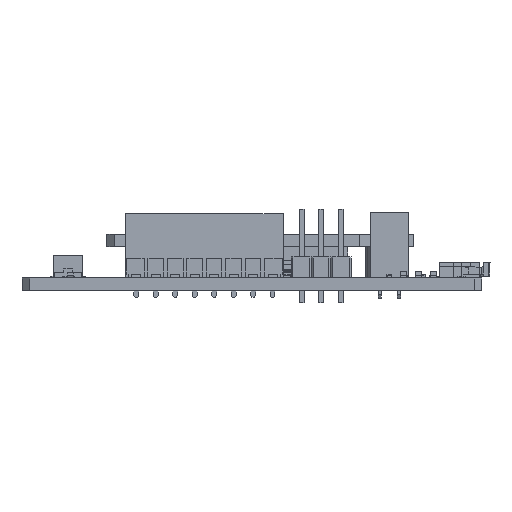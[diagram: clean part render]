
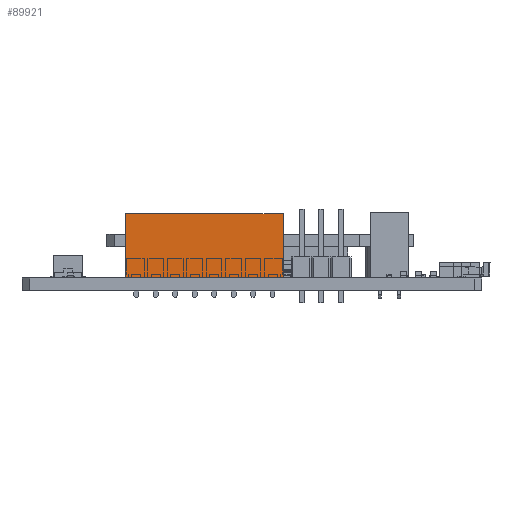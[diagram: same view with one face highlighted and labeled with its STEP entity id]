
A CAD part, left-side view. The second image highlights one B-rep face of the part: STEP entity #89921.
In plain terms, the highlighted planar face has unit normal (-1, 0, 0).
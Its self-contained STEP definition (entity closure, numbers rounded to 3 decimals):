
#89896 = VERTEX_POINT('',#89897);
#89897 = CARTESIAN_POINT('',(-1.37,-10.26,8.38));
#89903 = EDGE_CURVE('',#89904,#89896,#89906,.T.);
#89904 = VERTEX_POINT('',#89905);
#89905 = CARTESIAN_POINT('',(-1.37,-10.26,0.));
#89906 = LINE('',#89907,#89908);
#89907 = CARTESIAN_POINT('',(-1.37,-10.26,0.));
#89908 = VECTOR('',#89909,1.);
#89909 = DIRECTION('',(0.,0.,1.));
#89921 = ADVANCED_FACE('',(#89922),#89947,.T.);
#89922 = FACE_BOUND('',#89923,.T.);
#89923 = EDGE_LOOP('',(#89924,#89925,#89933,#89941));
#89924 = ORIENTED_EDGE('',*,*,#89903,.T.);
#89925 = ORIENTED_EDGE('',*,*,#89926,.T.);
#89926 = EDGE_CURVE('',#89896,#89927,#89929,.T.);
#89927 = VERTEX_POINT('',#89928);
#89928 = CARTESIAN_POINT('',(-1.37,10.26,8.38));
#89929 = LINE('',#89930,#89931);
#89930 = CARTESIAN_POINT('',(-1.37,-10.26,8.38));
#89931 = VECTOR('',#89932,1.);
#89932 = DIRECTION('',(0.,1.,0.));
#89933 = ORIENTED_EDGE('',*,*,#89934,.F.);
#89934 = EDGE_CURVE('',#89935,#89927,#89937,.T.);
#89935 = VERTEX_POINT('',#89936);
#89936 = CARTESIAN_POINT('',(-1.37,10.26,0.));
#89937 = LINE('',#89938,#89939);
#89938 = CARTESIAN_POINT('',(-1.37,10.26,0.));
#89939 = VECTOR('',#89940,1.);
#89940 = DIRECTION('',(0.,0.,1.));
#89941 = ORIENTED_EDGE('',*,*,#89942,.F.);
#89942 = EDGE_CURVE('',#89904,#89935,#89943,.T.);
#89943 = LINE('',#89944,#89945);
#89944 = CARTESIAN_POINT('',(-1.37,-10.26,0.));
#89945 = VECTOR('',#89946,1.);
#89946 = DIRECTION('',(0.,1.,0.));
#89947 = PLANE('',#89948);
#89948 = AXIS2_PLACEMENT_3D('',#89949,#89950,#89951);
#89949 = CARTESIAN_POINT('',(-1.37,-10.26,0.));
#89950 = DIRECTION('',(-1.,0.,0.));
#89951 = DIRECTION('',(0.,1.,0.));
